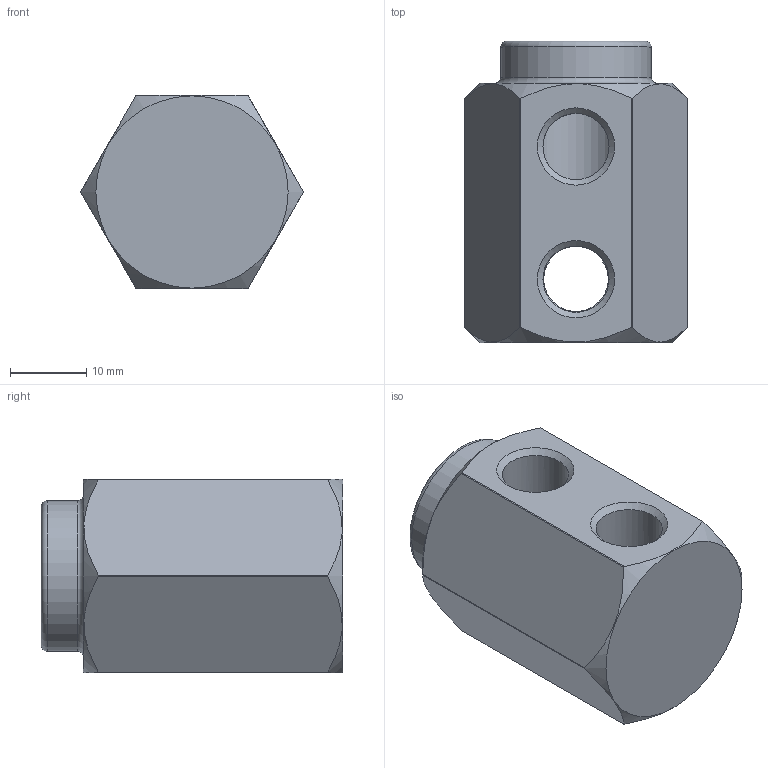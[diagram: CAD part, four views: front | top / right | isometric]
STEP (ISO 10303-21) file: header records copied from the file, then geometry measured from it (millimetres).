
FILE_DESCRIPTION(/* description */ (''),/* implementation_level */ '2;1');
FILE_NAME(/* name */ 'C:/Users/drich/Desktop/146H-HFT v1.step',/* time_stamp */ '2020-01-10T20:25:48-06:00',/* author */ (''),/* organization */ (''),/* preprocessor_version */ 'ST-DEVELOPER v18',/* originating_system */ 'Autodesk Translation Framework v8.12.0.6',/* authorisation */ '');
FILE_SCHEMA (('AUTOMOTIVE_DESIGN { 1 0 10303 214 3 1 1 }'));
Length unit declared in the file: inch
Products named in the file (2): 146H-HFT; 146H
Assembly tree (1 placements, depth 2):
  146H-HFT
    146H
Bounding box: 29.26 x 39.65 x 25.4 mm (x, y, z)
Volume: 16256 mm3; surface area: 5749.4 mm2
Topology: 1 solids, 1 shells, 32 faces, 91 edges, 61 vertices
Faces by surface type: cylinder 12, cone 9, plane 9, torus 2
Full cylindrical faces by diameter (mm): 6.909 x1, 8.707 x3, 11.668 x1, 19.812 x1
Entity records: 1215 total; most frequent: CARTESIAN_POINT 322, ORIENTED_EDGE 182, DIRECTION 181, EDGE_CURVE 91, AXIS2_PLACEMENT_3D 78, VERTEX_POINT 61, CIRCLE 43, EDGE_LOOP 38
